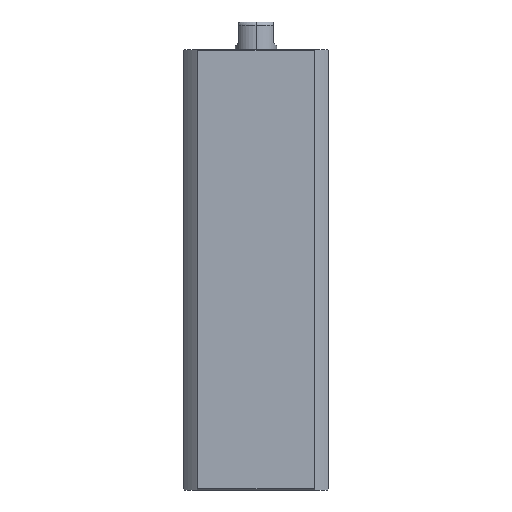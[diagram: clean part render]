
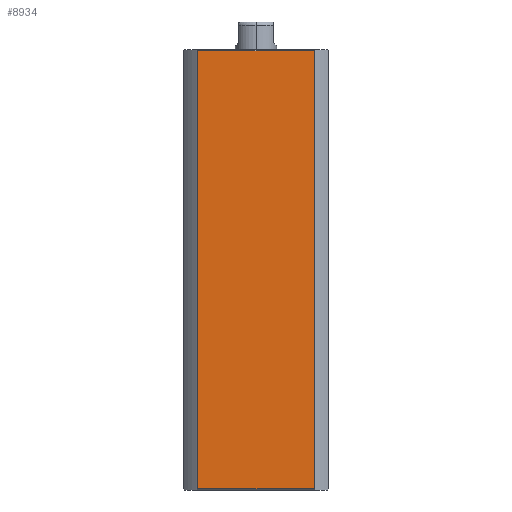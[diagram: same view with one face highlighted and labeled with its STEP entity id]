
A CAD part, left-side view. The second image highlights one B-rep face of the part: STEP entity #8934.
In plain terms, the highlighted planar face has unit normal (-1, 0, 0).
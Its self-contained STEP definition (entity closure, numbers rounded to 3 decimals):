
#268 = CARTESIAN_POINT ( 'NONE',  ( -21., 21., 127.7 ) ) ;
#886 = ORIENTED_EDGE ( 'NONE', *, *, #10727, .F. ) ;
#1085 = DIRECTION ( 'NONE',  ( 0., 0., -1. ) ) ;
#2543 = CARTESIAN_POINT ( 'NONE',  ( -21., 16.971, 0.3 ) ) ;
#2986 = EDGE_CURVE ( 'NONE', #11385, #3784, #10918, .T. ) ;
#3132 = DIRECTION ( 'NONE',  ( 0., 1., 0. ) ) ;
#3301 = ORIENTED_EDGE ( 'NONE', *, *, #8847, .F. ) ;
#3444 = CARTESIAN_POINT ( 'NONE',  ( -21., -16.971, 0.3 ) ) ;
#3468 = CARTESIAN_POINT ( 'NONE',  ( -21., -16.971, 127.7 ) ) ;
#3686 = EDGE_CURVE ( 'NONE', #11439, #6164, #10278, .T. ) ;
#3784 = VERTEX_POINT ( 'NONE', #10031 ) ;
#3839 = CARTESIAN_POINT ( 'NONE',  ( -21., -16.971, -122. ) ) ;
#4397 = VECTOR ( 'NONE', #5186, 1000. ) ;
#4537 = LINE ( 'NONE', #3839, #11415 ) ;
#4660 = DIRECTION ( 'NONE',  ( 0., -1., 0. ) ) ;
#5186 = DIRECTION ( 'NONE',  ( 0., 0., 1. ) ) ;
#5585 = CARTESIAN_POINT ( 'NONE',  ( -21., 21., 0.3 ) ) ;
#6164 = VERTEX_POINT ( 'NONE', #3444 ) ;
#6754 = CARTESIAN_POINT ( 'NONE',  ( -21., 21., 128. ) ) ;
#6758 = AXIS2_PLACEMENT_3D ( 'NONE', #6754, #8507, #3132 ) ;
#7405 = ORIENTED_EDGE ( 'NONE', *, *, #3686, .T. ) ;
#7948 = VECTOR ( 'NONE', #4660, 1000. ) ;
#8361 = ORIENTED_EDGE ( 'NONE', *, *, #2986, .T. ) ;
#8507 = DIRECTION ( 'NONE',  ( 1., 0., 0. ) ) ;
#8561 = VECTOR ( 'NONE', #8900, 1000. ) ;
#8701 = CARTESIAN_POINT ( 'NONE',  ( -21., 16.971, -122. ) ) ;
#8847 = EDGE_CURVE ( 'NONE', #11385, #6164, #4537, .T. ) ;
#8900 = DIRECTION ( 'NONE',  ( 0., 1., 0. ) ) ;
#8934 = ADVANCED_FACE ( 'NONE', ( #11096 ), #10218, .F. ) ;
#9120 = LINE ( 'NONE', #8701, #4397 ) ;
#10031 = CARTESIAN_POINT ( 'NONE',  ( -21., 16.971, 127.7 ) ) ;
#10218 = PLANE ( 'NONE',  #6758 ) ;
#10278 = LINE ( 'NONE', #5585, #7948 ) ;
#10727 = EDGE_CURVE ( 'NONE', #11439, #3784, #9120, .T. ) ;
#10918 = LINE ( 'NONE', #268, #8561 ) ;
#10980 = EDGE_LOOP ( 'NONE', ( #886, #7405, #3301, #8361 ) ) ;
#11096 = FACE_OUTER_BOUND ( 'NONE', #10980, .T. ) ;
#11385 = VERTEX_POINT ( 'NONE', #3468 ) ;
#11415 = VECTOR ( 'NONE', #1085, 1000. ) ;
#11439 = VERTEX_POINT ( 'NONE', #2543 ) ;
